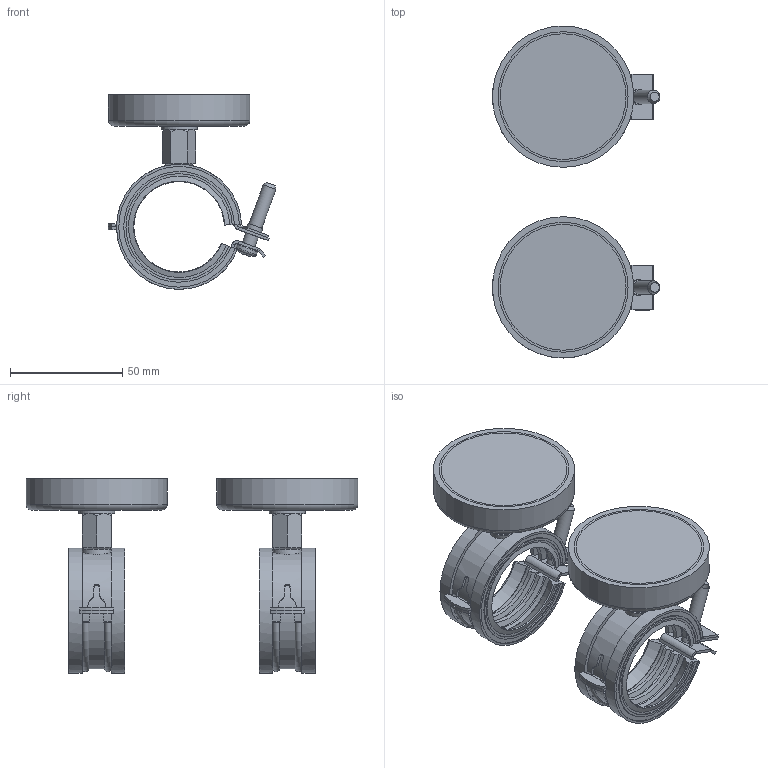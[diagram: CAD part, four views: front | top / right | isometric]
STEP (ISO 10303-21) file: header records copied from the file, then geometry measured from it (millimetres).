
FILE_DESCRIPTION(/* description */ ('Magnethalter Größe "2"'),/* implementation_level */ '2;1');
FILE_NAME(/* name */ '40-099-03-02.stp',/* time_stamp */ '2026-05-11T11:09:56+02:00',/* author */ ('Möller'),/* organization */ (''),/* preprocessor_version */ 'ST-DEVELOPER v20',/* originating_system */ 'Autodesk Inventor 2025',/* authorisation */ '');
FILE_SCHEMA (('AUTOMOTIVE_DESIGN { 1 0 10303 214 3 1 1 }'));
Length unit declared in the file: millimetre
Products named in the file (1): 40-099-03-02
Bounding box: 74.81 x 148 x 86.85 mm (x, y, z)
Volume: 131142.3 mm3; surface area: 55353.8 mm2
Topology: 6 solids, 6 shells, 582 faces, 1584 edges, 1006 vertices
Faces by surface type: plane 320, cylinder 142, cone 62, bspline 38, torus 14, sphere 6
Full cylindrical faces by diameter (mm): 2.5 x4, 6 x4, 6.8 x2, 7 x2, 8 x2, 8.4 x2, 8.5 x2, 10 x2, 10.5 x2, 16 x2, 63 x2
Entity records: 20958 total; most frequent: CARTESIAN_POINT 5527, ORIENTED_EDGE 3176, DIRECTION 3066, EDGE_CURVE 1588, AXIS2_PLACEMENT_3D 1093, VERTEX_POINT 1006, LINE 880, VECTOR 880
